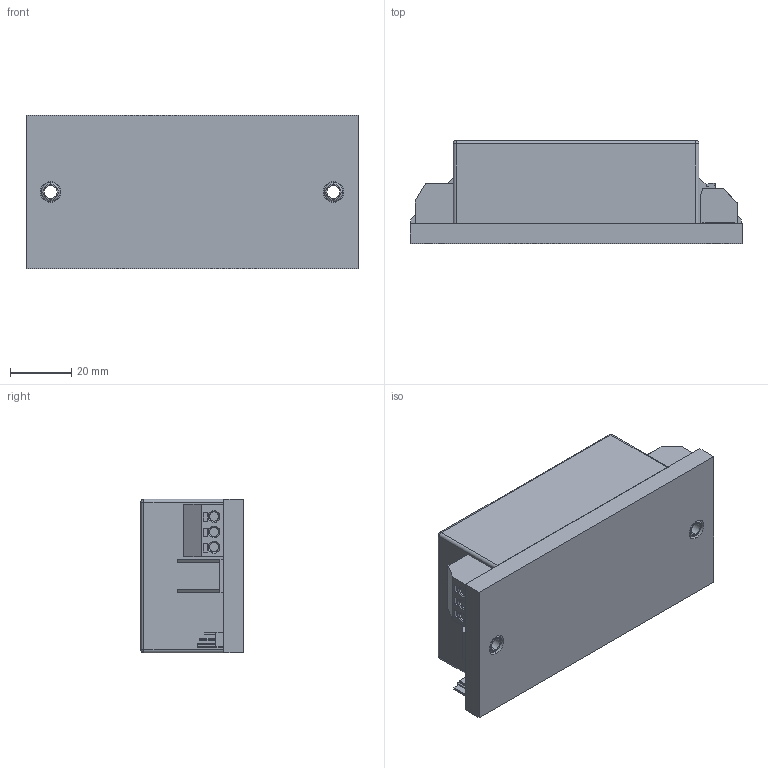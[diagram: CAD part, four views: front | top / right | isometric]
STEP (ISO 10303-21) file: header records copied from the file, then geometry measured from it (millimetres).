
FILE_DESCRIPTION (( 'STEP AP214' ), '1' );
FILE_NAME ('D-NM11-SUE.STEP', '2015-08-25T10:06:35', ( '' ), ( '' ), 'SwSTEP 2.0', 'SolidWorks 2015', '' );
FILE_SCHEMA (( 'AUTOMOTIVE_DESIGN' ));
Length unit declared in the file: millimetre
Products named in the file (30): Unterteil-gr; Extruded_6; 729720304; D-NM11-SUE; Extruded_5; 729720560; Extruded_4; Aufkleber-75x45-NM11-SUE; X3Dummy-NM11-S; 250_204_2_03; X1Dummy-NM11-S; 253_103_2_03; X4Dummy-NM11-S; 62323928; Cylinder; Oberteil-gr; 712504544; Dummy-NM11-SUE; Extruded_3; X2Dummy-NM11-S; 712504672; 729720048; Extruded_2; Extruded_8; 712504800; 729720176; Extruded; Extruded_7; BoardDummy-NM11-S; 729720432
Assembly tree (38 placements, depth 5):
  D-NM11-SUE
    Unterteil-gr
    Dummy-NM11-SUE
      BoardDummy-NM11-S
      X4Dummy-NM11-S
        712504800
          Extruded
        712504672
          Extruded_2
        712504544
          Extruded_3
        62323928  x4
          Cylinder
      X1Dummy-NM11-S
        253_103_2_03
      X3Dummy-NM11-S
        250_204_2_03
      X2Dummy-NM11-S
        729720560  x4
          Extruded_4
        729720304  x4
          Extruded_5
        729720432
          Extruded_6
        729720176
          Extruded_7
        729720048
          Extruded_8
    Oberteil-gr
    Aufkleber-75x45-NM11-SUE
Bounding box: 108 x 33.5 x 50 mm (x, y, z)
Volume: 35479.1 mm3; surface area: 58112.4 mm2
Topology: 24 solids, 24 shells, 567 faces, 1412 edges, 920 vertices
Faces by surface type: plane 392, cylinder 139, cone 20, torus 12, sphere 4
Entity records: 18188 total; most frequent: CARTESIAN_POINT 2836, DIRECTION 2732, ORIENTED_EDGE 2636, EDGE_CURVE 1318, LINE 996, VECTOR 996, AXIS2_PLACEMENT_3D 868, VERTEX_POINT 860
